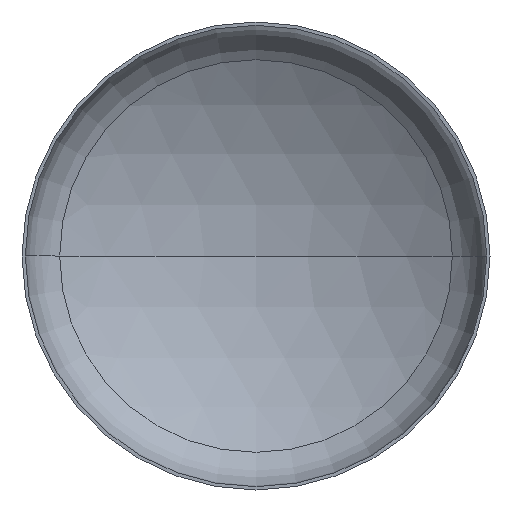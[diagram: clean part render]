
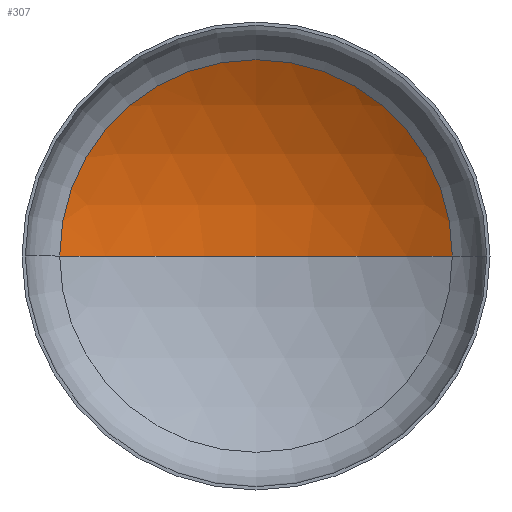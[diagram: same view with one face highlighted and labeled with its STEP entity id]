
A CAD part, front view. The second image highlights one B-rep face of the part: STEP entity #307.
In plain terms, the highlighted spherical face has radius 5600 mm.
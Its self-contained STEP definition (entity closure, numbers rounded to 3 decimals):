
#7 = VERTEX_POINT ( 'NONE', #84 ) ;
#24 = AXIS2_PLACEMENT_3D ( 'NONE', #197, #151, #218 ) ;
#31 = ORIENTED_EDGE ( 'NONE', *, *, #141, .T. ) ;
#34 = VERTEX_POINT ( 'NONE', #265 ) ;
#49 = CARTESIAN_POINT ( 'NONE',  ( 0., -3698.831, 0. ) ) ;
#65 = ORIENTED_EDGE ( 'NONE', *, *, #145, .F. ) ;
#72 = AXIS2_PLACEMENT_3D ( 'NONE', #49, #286, #144 ) ;
#82 = VERTEX_POINT ( 'NONE', #214 ) ;
#84 = CARTESIAN_POINT ( 'NONE',  ( -2936.283, 1069.632, 0. ) ) ;
#94 = AXIS2_PLACEMENT_3D ( 'NONE', #304, #168, #324 ) ;
#101 = AXIS2_PLACEMENT_3D ( 'NONE', #346, #208, #374 ) ;
#109 = EDGE_LOOP ( 'NONE', ( #65, #31, #116 ) ) ;
#116 = ORIENTED_EDGE ( 'NONE', *, *, #138, .T. ) ;
#138 = EDGE_CURVE ( 'NONE', #82, #7, #170, .T. ) ;
#141 = EDGE_CURVE ( 'NONE', #34, #82, #220, .T. ) ;
#144 = DIRECTION ( 'NONE',  ( 1., 0., 0. ) ) ;
#145 = EDGE_CURVE ( 'NONE', #34, #7, #343, .T. ) ;
#151 = DIRECTION ( 'NONE',  ( 0., 0., -1. ) ) ;
#168 = DIRECTION ( 'NONE',  ( 0., 0., -1. ) ) ;
#170 = CIRCLE ( 'NONE', #101, 2936.283 ) ;
#197 = CARTESIAN_POINT ( 'NONE',  ( 0., -3698.831, 0. ) ) ;
#208 = DIRECTION ( 'NONE',  ( 0., -1., 0. ) ) ;
#214 = CARTESIAN_POINT ( 'NONE',  ( 2936.283, 1069.632, 0. ) ) ;
#218 = DIRECTION ( 'NONE',  ( -1., 0., 0. ) ) ;
#220 = CIRCLE ( 'NONE', #94, 5600. ) ;
#265 = CARTESIAN_POINT ( 'NONE',  ( 0., 1901.169, 0. ) ) ;
#286 = DIRECTION ( 'NONE',  ( 0., 0., 1. ) ) ;
#304 = CARTESIAN_POINT ( 'NONE',  ( 0., -3698.831, 0. ) ) ;
#307 = ADVANCED_FACE ( 'NONE', ( #379 ), #315, .F. ) ;
#315 = SPHERICAL_SURFACE ( 'NONE', #24, 5600. ) ;
#324 = DIRECTION ( 'NONE',  ( -1., 0., 0. ) ) ;
#343 = CIRCLE ( 'NONE', #72, 5600. ) ;
#346 = CARTESIAN_POINT ( 'NONE',  ( 0., 1069.632, 0. ) ) ;
#374 = DIRECTION ( 'NONE',  ( 1., 0., 0. ) ) ;
#379 = FACE_OUTER_BOUND ( 'NONE', #109, .T. ) ;
